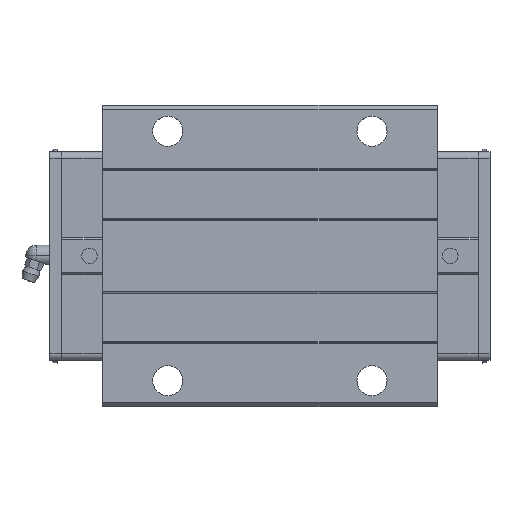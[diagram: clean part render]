
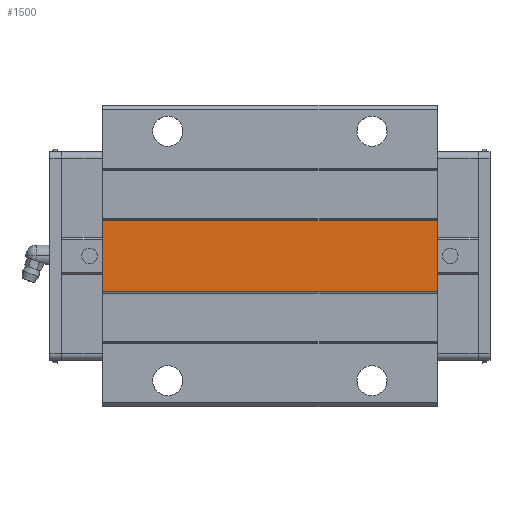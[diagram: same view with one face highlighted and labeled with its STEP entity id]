
A CAD part, top view. The second image highlights one B-rep face of the part: STEP entity #1500.
In plain terms, the highlighted planar face has unit normal (0, 0, 1).
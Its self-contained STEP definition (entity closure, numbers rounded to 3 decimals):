
#1439=CARTESIAN_POINT('POINT102',(180.3,-16.5,
   57.));
#1440=VERTEX_POINT('VERTEX102',#1439);
#1447=CARTESIAN_POINT('POINT103',(24.5,-16.5,
   57.));
#1448=VERTEX_POINT('VERTEX103',#1447);
#1449=CARTESIAN_POINT('POS147',(24.5,-16.5,
   57.));
#1450=DIRECTION('DIR209',(1.,0.,0.));
#1451=VECTOR('VEC85',#1450,1.);
#1452=LINE('STRAIGHT85',#1449,#1451);
#1453=EDGE_CURVE('EDGE139',#1448,#1440,#1452,.T.);
#1470=CARTESIAN_POINT('POINT104',(180.3,16.5,57.));
#1471=VERTEX_POINT('VERTEX104',#1470);
#1472=CARTESIAN_POINT('POS150',(180.3,0.,57.));
#1473=DIRECTION('DIR213',(0.,1.,0.));
#1474=VECTOR('VEC87',#1473,1.);
#1475=LINE('STRAIGHT87',#1472,#1474);
#1476=EDGE_CURVE('EDGE141',#1440,#1471,#1475,.T.);
#1477=ORIENTED_EDGE('COEDGE215',*,*,#1476,.T.);
#1478=CARTESIAN_POINT('POINT105',(24.5,16.5,57.));
#1479=VERTEX_POINT('VERTEX105',#1478);
#1480=CARTESIAN_POINT('POS151',(24.5,16.5,57.));
#1481=DIRECTION('DIR214',(1.,0.,0.));
#1482=VECTOR('VEC88',#1481,1.);
#1483=LINE('STRAIGHT88',#1480,#1482);
#1484=EDGE_CURVE('EDGE142',#1479,#1471,#1483,.T.);
#1485=ORIENTED_EDGE('COEDGE216',*,*,#1484,.F.);
#1486=CARTESIAN_POINT('POS152',(24.5,0.,57.));
#1487=DIRECTION('DIR215',(0.,1.,0.));
#1488=VECTOR('VEC89',#1487,1.);
#1489=LINE('STRAIGHT89',#1486,#1488);
#1490=EDGE_CURVE('EDGE143',#1448,#1479,#1489,.T.);
#1491=ORIENTED_EDGE('COEDGE217',*,*,#1490,.F.);
#1492=ORIENTED_EDGE('COEDGE218',*,*,#1453,.T.);
#1493=EDGE_LOOP('NONE',(#1477,#1485,#1491,#1492));
#1494=FACE_BOUND('LOOP1',#1493,.T.);
#1495=CARTESIAN_POINT('POS153',(24.5,0.,57.));
#1496=DIRECTION('DIR216',(0.,0.,1.));
#1497=DIRECTION('DIR217',(1.,0.,0.));
#1498=AXIS2_PLACEMENT_3D('AXIS64',#1495,#1496,#1497);
#1499=PLANE('PLANE18',#1498);
#1500=ADVANCED_FACE('FACE42',(#1494),#1499,.T.);
